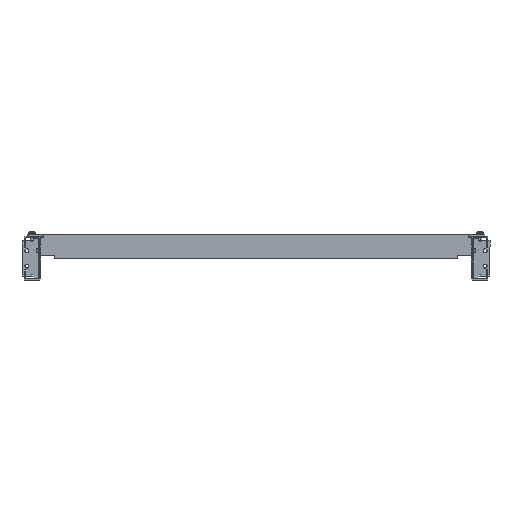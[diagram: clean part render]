
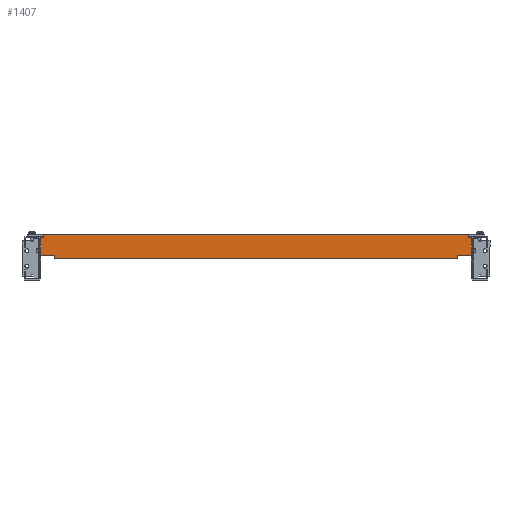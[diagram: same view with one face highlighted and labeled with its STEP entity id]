
A CAD part, left-side view. The second image highlights one B-rep face of the part: STEP entity #1407.
In plain terms, the highlighted planar face has unit normal (-1, 0, 0).
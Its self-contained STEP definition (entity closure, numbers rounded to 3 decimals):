
#85 = VERTEX_POINT ( 'NONE', #11434 ) ;
#151 = EDGE_CURVE ( 'NONE', #14989, #4659, #2431, .T. ) ;
#786 = LINE ( 'NONE', #15800, #9859 ) ;
#815 = VECTOR ( 'NONE', #8812, 1000. ) ;
#830 = VERTEX_POINT ( 'NONE', #10394 ) ;
#985 = DIRECTION ( 'NONE',  ( 0., 0., 1. ) ) ;
#1218 = ORIENTED_EDGE ( 'NONE', *, *, #18620, .T. ) ;
#1407 = ADVANCED_FACE ( 'NONE', ( #6198 ), #14856, .F. ) ;
#1482 = CARTESIAN_POINT ( 'NONE',  ( -102., -429.25, -4.5 ) ) ;
#2431 = LINE ( 'NONE', #3918, #15522 ) ;
#2466 = LINE ( 'NONE', #18919, #7364 ) ;
#2610 = ORIENTED_EDGE ( 'NONE', *, *, #10951, .F. ) ;
#2697 = VECTOR ( 'NONE', #7423, 1000. ) ;
#2756 = LINE ( 'NONE', #1482, #14454 ) ;
#2869 = CARTESIAN_POINT ( 'NONE',  ( -102., 248.25, 38.5 ) ) ;
#3124 = CARTESIAN_POINT ( 'NONE',  ( -102., 0., 5.5 ) ) ;
#3206 = VERTEX_POINT ( 'NONE', #6103 ) ;
#3442 = DIRECTION ( 'NONE',  ( 0., -1., 0. ) ) ;
#3457 = DIRECTION ( 'NONE',  ( 0., 0., -1. ) ) ;
#3525 = ORIENTED_EDGE ( 'NONE', *, *, #11603, .T. ) ;
#3878 = CARTESIAN_POINT ( 'NONE',  ( -102., -448.25, 38.5 ) ) ;
#3918 = CARTESIAN_POINT ( 'NONE',  ( -102., 248.25, 33.5 ) ) ;
#3923 = LINE ( 'NONE', #11152, #8594 ) ;
#4501 = CARTESIAN_POINT ( 'NONE',  ( -102., 248.25, 19.5 ) ) ;
#4659 = VERTEX_POINT ( 'NONE', #6688 ) ;
#4701 = LINE ( 'NONE', #3124, #19169 ) ;
#4872 = VERTEX_POINT ( 'NONE', #14545 ) ;
#5063 = EDGE_CURVE ( 'NONE', #3206, #7822, #13576, .T. ) ;
#5424 = CARTESIAN_POINT ( 'NONE',  ( -102., -429.25, 5.5 ) ) ;
#5917 = EDGE_CURVE ( 'NONE', #10554, #7822, #10388, .T. ) ;
#5931 = AXIS2_PLACEMENT_3D ( 'NONE', #7760, #12325, #3457 ) ;
#6003 = CARTESIAN_POINT ( 'NONE',  ( -102., 248.25, 33.5 ) ) ;
#6103 = CARTESIAN_POINT ( 'NONE',  ( -102., 248.25, 5.5 ) ) ;
#6198 = FACE_OUTER_BOUND ( 'NONE', #10100, .T. ) ;
#6404 = EDGE_CURVE ( 'NONE', #3206, #16767, #7103, .T. ) ;
#6657 = VECTOR ( 'NONE', #7975, 1000. ) ;
#6660 = EDGE_CURVE ( 'NONE', #830, #7272, #12356, .T. ) ;
#6680 = LINE ( 'NONE', #9694, #13977 ) ;
#6688 = CARTESIAN_POINT ( 'NONE',  ( -102., 253.25, 33.5 ) ) ;
#6717 = ORIENTED_EDGE ( 'NONE', *, *, #6404, .F. ) ;
#6960 = DIRECTION ( 'NONE',  ( 0., 1., 0. ) ) ;
#7070 = DIRECTION ( 'NONE',  ( 0., 0., 1. ) ) ;
#7103 = LINE ( 'NONE', #13336, #17167 ) ;
#7272 = VERTEX_POINT ( 'NONE', #17630 ) ;
#7338 = CARTESIAN_POINT ( 'NONE',  ( -102., -453.25, 19.5 ) ) ;
#7364 = VECTOR ( 'NONE', #7070, 1000. ) ;
#7421 = ORIENTED_EDGE ( 'NONE', *, *, #15400, .F. ) ;
#7423 = DIRECTION ( 'NONE',  ( 0., 0., 1. ) ) ;
#7635 = DIRECTION ( 'NONE',  ( 0., -1., 0. ) ) ;
#7760 = CARTESIAN_POINT ( 'NONE',  ( -102., 0., 19.5 ) ) ;
#7822 = VERTEX_POINT ( 'NONE', #9533 ) ;
#7975 = DIRECTION ( 'NONE',  ( 0., -1., 0. ) ) ;
#8366 = CARTESIAN_POINT ( 'NONE',  ( -102., 229.25, 0.5 ) ) ;
#8452 = VECTOR ( 'NONE', #3442, 1000. ) ;
#8594 = VECTOR ( 'NONE', #6960, 1000. ) ;
#8629 = DIRECTION ( 'NONE',  ( 0., 0., 1. ) ) ;
#8712 = ORIENTED_EDGE ( 'NONE', *, *, #5063, .T. ) ;
#8812 = DIRECTION ( 'NONE',  ( 0., 0., -1. ) ) ;
#8828 = CARTESIAN_POINT ( 'NONE',  ( -102., 229.25, 19.5 ) ) ;
#9266 = CARTESIAN_POINT ( 'NONE',  ( -102., -448.25, 33.5 ) ) ;
#9533 = CARTESIAN_POINT ( 'NONE',  ( -102., 229.25, 5.5 ) ) ;
#9694 = CARTESIAN_POINT ( 'NONE',  ( -102., 0., 38.5 ) ) ;
#9784 = DIRECTION ( 'NONE',  ( 0., 1., 0. ) ) ;
#9859 = VECTOR ( 'NONE', #985, 1000. ) ;
#9945 = EDGE_CURVE ( 'NONE', #4872, #18114, #2756, .T. ) ;
#10100 = EDGE_LOOP ( 'NONE', ( #11850, #3525, #15167, #7421, #13428, #17891, #1218, #13801, #17378, #2610, #6717, #8712, #18850, #14652 ) ) ;
#10253 = LINE ( 'NONE', #4501, #2697 ) ;
#10388 = LINE ( 'NONE', #8828, #13462 ) ;
#10394 = CARTESIAN_POINT ( 'NONE',  ( -102., -448.25, 5.5 ) ) ;
#10426 = DIRECTION ( 'NONE',  ( 0., 1., 0. ) ) ;
#10554 = VERTEX_POINT ( 'NONE', #8366 ) ;
#10950 = CARTESIAN_POINT ( 'NONE',  ( -102., 253.25, 5.5 ) ) ;
#10951 = EDGE_CURVE ( 'NONE', #16767, #4659, #2466, .T. ) ;
#11152 = CARTESIAN_POINT ( 'NONE',  ( -102., 0., 0.5 ) ) ;
#11434 = CARTESIAN_POINT ( 'NONE',  ( -102., -453.25, 33.5 ) ) ;
#11502 = VECTOR ( 'NONE', #16192, 1000. ) ;
#11603 = EDGE_CURVE ( 'NONE', #18114, #830, #4701, .T. ) ;
#11850 = ORIENTED_EDGE ( 'NONE', *, *, #9945, .T. ) ;
#12325 = DIRECTION ( 'NONE',  ( 1., 0., 0. ) ) ;
#12356 = LINE ( 'NONE', #16622, #6657 ) ;
#12644 = EDGE_CURVE ( 'NONE', #4872, #10554, #3923, .T. ) ;
#13336 = CARTESIAN_POINT ( 'NONE',  ( -102., 0., 5.5 ) ) ;
#13428 = ORIENTED_EDGE ( 'NONE', *, *, #18664, .F. ) ;
#13462 = VECTOR ( 'NONE', #19199, 1000. ) ;
#13534 = VERTEX_POINT ( 'NONE', #3878 ) ;
#13576 = LINE ( 'NONE', #16763, #8452 ) ;
#13801 = ORIENTED_EDGE ( 'NONE', *, *, #17050, .F. ) ;
#13977 = VECTOR ( 'NONE', #15612, 1000. ) ;
#14454 = VECTOR ( 'NONE', #8629, 1000. ) ;
#14545 = CARTESIAN_POINT ( 'NONE',  ( -102., -429.25, 0.5 ) ) ;
#14652 = ORIENTED_EDGE ( 'NONE', *, *, #12644, .F. ) ;
#14856 = PLANE ( 'NONE',  #5931 ) ;
#14989 = VERTEX_POINT ( 'NONE', #6003 ) ;
#15015 = VERTEX_POINT ( 'NONE', #2869 ) ;
#15167 = ORIENTED_EDGE ( 'NONE', *, *, #6660, .T. ) ;
#15348 = EDGE_CURVE ( 'NONE', #19260, #13534, #786, .T. ) ;
#15400 = EDGE_CURVE ( 'NONE', #85, #7272, #19087, .T. ) ;
#15522 = VECTOR ( 'NONE', #9784, 1000. ) ;
#15612 = DIRECTION ( 'NONE',  ( 0., 1., 0. ) ) ;
#15800 = CARTESIAN_POINT ( 'NONE',  ( -102., -448.25, 33.5 ) ) ;
#16192 = DIRECTION ( 'NONE',  ( 0., -1., 0. ) ) ;
#16622 = CARTESIAN_POINT ( 'NONE',  ( -102., -448.25, 5.5 ) ) ;
#16763 = CARTESIAN_POINT ( 'NONE',  ( -102., 0., 5.5 ) ) ;
#16767 = VERTEX_POINT ( 'NONE', #10950 ) ;
#17050 = EDGE_CURVE ( 'NONE', #14989, #15015, #10253, .T. ) ;
#17167 = VECTOR ( 'NONE', #10426, 1000. ) ;
#17378 = ORIENTED_EDGE ( 'NONE', *, *, #151, .T. ) ;
#17630 = CARTESIAN_POINT ( 'NONE',  ( -102., -453.25, 5.5 ) ) ;
#17831 = CARTESIAN_POINT ( 'NONE',  ( -102., 0., 33.5 ) ) ;
#17891 = ORIENTED_EDGE ( 'NONE', *, *, #15348, .T. ) ;
#18114 = VERTEX_POINT ( 'NONE', #5424 ) ;
#18620 = EDGE_CURVE ( 'NONE', #13534, #15015, #6680, .T. ) ;
#18664 = EDGE_CURVE ( 'NONE', #19260, #85, #19186, .T. ) ;
#18850 = ORIENTED_EDGE ( 'NONE', *, *, #5917, .F. ) ;
#18919 = CARTESIAN_POINT ( 'NONE',  ( -102., 253.25, 19.5 ) ) ;
#19087 = LINE ( 'NONE', #7338, #815 ) ;
#19169 = VECTOR ( 'NONE', #7635, 1000. ) ;
#19186 = LINE ( 'NONE', #17831, #11502 ) ;
#19199 = DIRECTION ( 'NONE',  ( 0., 0., 1. ) ) ;
#19260 = VERTEX_POINT ( 'NONE', #9266 ) ;
